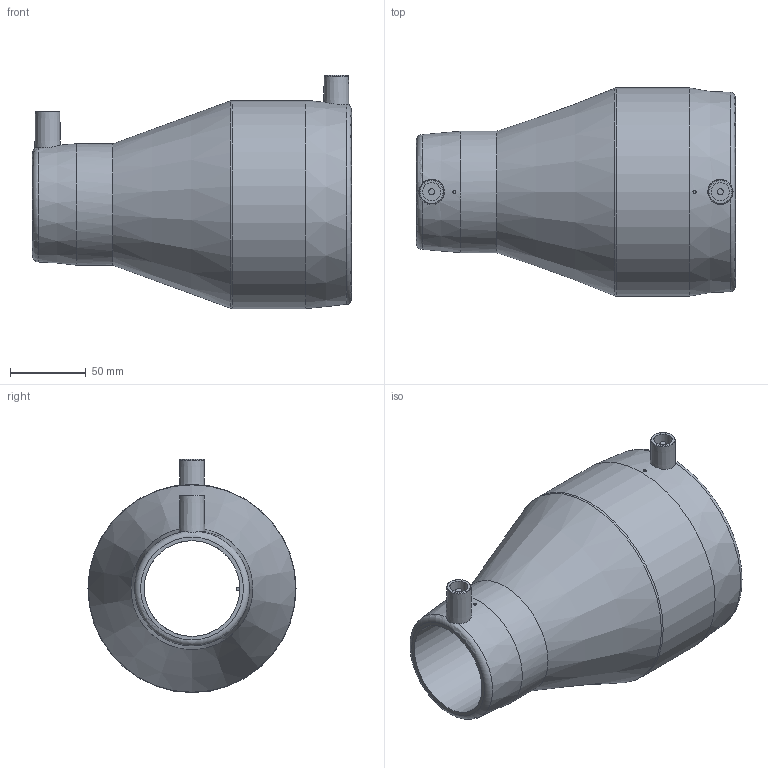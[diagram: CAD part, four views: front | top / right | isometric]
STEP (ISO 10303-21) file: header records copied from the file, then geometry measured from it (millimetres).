
FILE_DESCRIPTION(/* description */ ('Unknown'),/* implementation_level */ '2;1');
FILE_NAME(/* name */ 'REP110063C',/* time_stamp */ '2021-05-25T17:46:47+02:00',/* author */ ('Unknown'),/* organization */ ('Unknown'),/* preprocessor_version */ 'ST-DEVELOPER v16.7',/* originating_system */ 'Solid Edge',/* authorisation */ 'Unknown');
FILE_SCHEMA (('AUTOMOTIVE_DESIGN {1 0 10303 214 3 1 1}'));
Length unit declared in the file: millimetre
Products named in the file (1): REP110063C
Bounding box: 210 x 137 x 153.5 mm (x, y, z)
Volume: 800896.2 mm3; surface area: 142112.4 mm2
Topology: 1 solids, 1 shells, 36 faces, 79 edges, 50 vertices
Faces by surface type: plane 15, cylinder 10, cone 6, torus 5
Full cylindrical faces by diameter (mm): 2 x2, 4 x2, 12 x2, 63 x1, 80 x1, 110 x1, 137 x1
Entity records: 846 total; most frequent: CARTESIAN_POINT 174, DIRECTION 142, ORIENTED_EDGE 90, AXIS2_PLACEMENT_3D 66, EDGE_LOOP 65, FACE_BOUND 65, EDGE_CURVE 45, VERTEX_POINT 38
